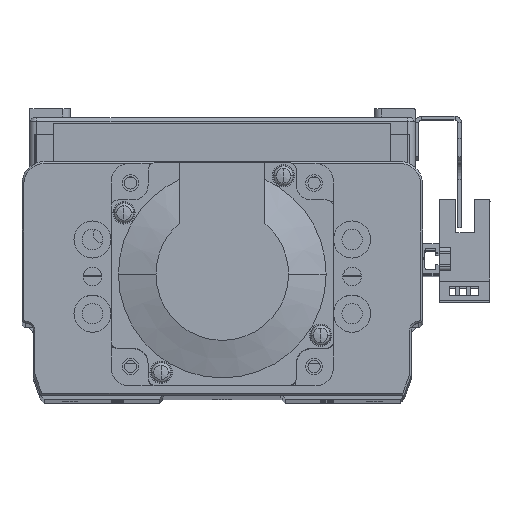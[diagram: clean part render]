
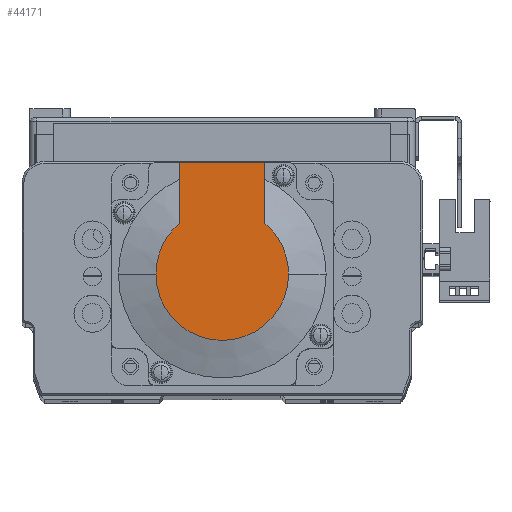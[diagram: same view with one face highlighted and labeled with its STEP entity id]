
A CAD part, top view. The second image highlights one B-rep face of the part: STEP entity #44171.
In plain terms, the highlighted planar face has unit normal (0, 0, 1) as drawn and (-1, 0, 0) by its records, which use the part's own axes.
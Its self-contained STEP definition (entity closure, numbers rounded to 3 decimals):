
#5981 = DIRECTION ( 'NONE',  ( 0., 0., -1. ) ) ;
#5988 = CARTESIAN_POINT ( 'NONE',  ( -99., 0., 0. ) ) ;
#6016 = DIRECTION ( 'NONE',  ( -1., 0., 0. ) ) ;
#6445 = CARTESIAN_POINT ( 'NONE',  ( -99., 30., 25. ) ) ;
#6459 = DIRECTION ( 'NONE',  ( 0., 0., 1. ) ) ;
#6472 = CARTESIAN_POINT ( 'NONE',  ( -99., 0., 11.45 ) ) ;
#6492 = DIRECTION ( 'NONE',  ( 0., -1., 0. ) ) ;
#9752 = DIRECTION ( 'NONE',  ( -1., 0., 0. ) ) ;
#9762 = DIRECTION ( 'NONE',  ( 0., 0., 1. ) ) ;
#9777 = PLANE ( 'NONE',  #34174 ) ;
#9778 = CARTESIAN_POINT ( 'NONE',  ( -99., -8.941, 0. ) ) ;
#10818 = CIRCLE ( 'NONE', #34775, 17.881 ) ;
#11065 = LINE ( 'NONE', #6445, #11116 ) ;
#11073 = LINE ( 'NONE', #6472, #11152 ) ;
#11116 = VECTOR ( 'NONE', #6459, 1000. ) ;
#11152 = VECTOR ( 'NONE', #6492, 1000. ) ;
#11250 = LINE ( 'NONE', #13256, #11280 ) ;
#11280 = VECTOR ( 'NONE', #13245, 1000. ) ;
#13245 = DIRECTION ( 'NONE',  ( 0., -1., 0. ) ) ;
#13256 = CARTESIAN_POINT ( 'NONE',  ( -99., -8.941, -11.45 ) ) ;
#17818 = CARTESIAN_POINT ( 'NONE',  ( -99., 0., 0. ) ) ;
#17825 = DIRECTION ( 'NONE',  ( -1., 0., 0. ) ) ;
#17850 = DIRECTION ( 'NONE',  ( 0., 0., -1. ) ) ;
#18148 = CARTESIAN_POINT ( 'NONE',  ( -99., 0., 0. ) ) ;
#18161 = DIRECTION ( 'NONE',  ( 0., 0., -1. ) ) ;
#18183 = DIRECTION ( 'NONE',  ( -1., 0., 0. ) ) ;
#19663 = CIRCLE ( 'NONE', #34266, 17.881 ) ;
#19865 = CIRCLE ( 'NONE', #34353, 17.881 ) ;
#23434 = VERTEX_POINT ( 'NONE', #42672 ) ;
#23458 = VERTEX_POINT ( 'NONE', #42688 ) ;
#23512 = VERTEX_POINT ( 'NONE', #42694 ) ;
#23849 = VERTEX_POINT ( 'NONE', #50800 ) ;
#23889 = VERTEX_POINT ( 'NONE', #50814 ) ;
#24095 = VERTEX_POINT ( 'NONE', #50883 ) ;
#34174 = AXIS2_PLACEMENT_3D ( 'NONE', #9778, #9752, #9762 ) ;
#34266 = AXIS2_PLACEMENT_3D ( 'NONE', #17818, #17825, #17850 ) ;
#34353 = AXIS2_PLACEMENT_3D ( 'NONE', #18148, #18183, #18161 ) ;
#34775 = AXIS2_PLACEMENT_3D ( 'NONE', #5988, #6016, #5981 ) ;
#41191 = FACE_OUTER_BOUND ( 'NONE', #55879, .T. ) ;
#42672 = CARTESIAN_POINT ( 'NONE',  ( -99., 0., -17.881 ) ) ;
#42688 = CARTESIAN_POINT ( 'NONE',  ( -99., 0., 17.881 ) ) ;
#42694 = CARTESIAN_POINT ( 'NONE',  ( -99., 13.735, 11.45 ) ) ;
#44171 = ADVANCED_FACE ( 'NONE', ( #41191 ), #9777, .T. ) ;
#44376 = EDGE_CURVE ( 'NONE', #23458, #23512, #19663, .T. ) ;
#44434 = EDGE_CURVE ( 'NONE', #23434, #23458, #19865, .T. ) ;
#45327 = EDGE_CURVE ( 'NONE', #23849, #23434, #10818, .T. ) ;
#45594 = EDGE_CURVE ( 'NONE', #23889, #24095, #11065, .T. ) ;
#45609 = EDGE_CURVE ( 'NONE', #24095, #23512, #11073, .T. ) ;
#45672 = EDGE_CURVE ( 'NONE', #23889, #23849, #11250, .T. ) ;
#50800 = CARTESIAN_POINT ( 'NONE',  ( -99., 13.735, -11.45 ) ) ;
#50814 = CARTESIAN_POINT ( 'NONE',  ( -99., 30., -11.45 ) ) ;
#50883 = CARTESIAN_POINT ( 'NONE',  ( -99., 30., 11.45 ) ) ;
#54831 = ORIENTED_EDGE ( 'NONE', *, *, #44376, .T. ) ;
#54833 = ORIENTED_EDGE ( 'NONE', *, *, #45609, .F. ) ;
#54842 = ORIENTED_EDGE ( 'NONE', *, *, #45672, .T. ) ;
#54845 = ORIENTED_EDGE ( 'NONE', *, *, #45594, .F. ) ;
#54847 = ORIENTED_EDGE ( 'NONE', *, *, #45327, .T. ) ;
#54850 = ORIENTED_EDGE ( 'NONE', *, *, #44434, .T. ) ;
#55879 = EDGE_LOOP ( 'NONE', ( #54842, #54847, #54850, #54831, #54833, #54845 ) ) ;
